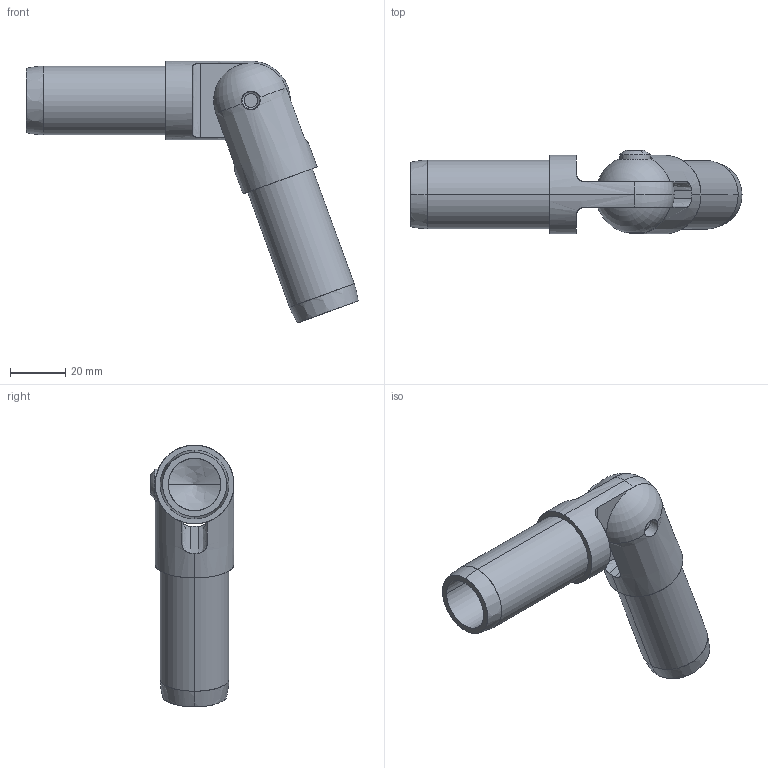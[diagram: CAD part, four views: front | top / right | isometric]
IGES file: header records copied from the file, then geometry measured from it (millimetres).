
Start section: SolidWorks IGES file using analytic representation for surfaces
Global section: file name: \\SERVER3\Design\_New Design Drive Folder List\_Design Vault\AAI\Modular Round Tube Connectors\Solidworks Models\STP Files\12202013\1.000 Inch Modular Connectors\Assemblies\1 Inch In-plane Adjustable Angle 2-Tube Joint Kit.IGS; native system: SolidWorks 2013; preprocessor: SolidWorks 2013; author: tbraun; date: 140110.114009; units: inch
Bounding box: 120.56 x 30.44 x 95.03 mm (x, y, z)
Surface area: 25813.7 mm2 (no closed solid volume)
Topology: 0 solids, 0 shells, 212 faces, 3055 edges, 3050 vertices
Faces by surface type: revolution 170, bspline 42
